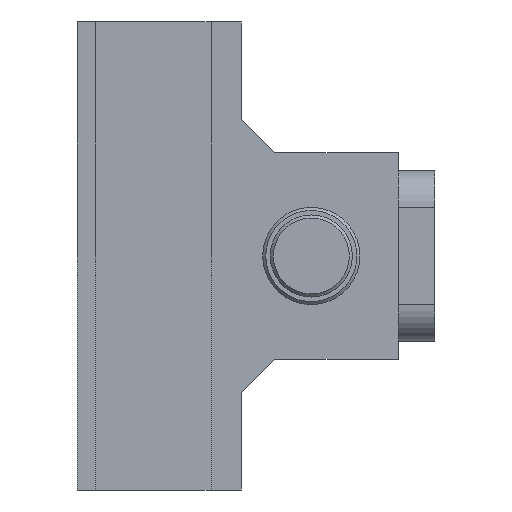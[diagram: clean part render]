
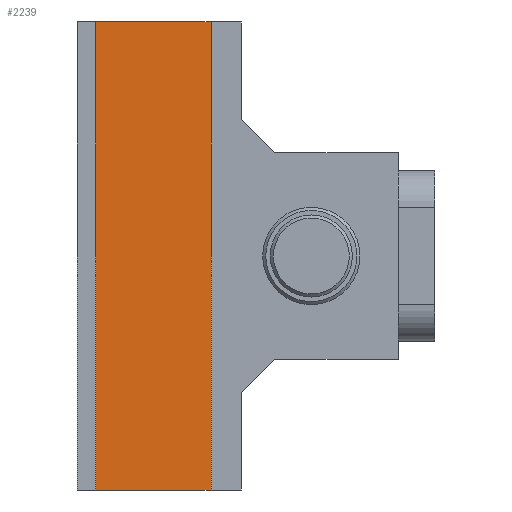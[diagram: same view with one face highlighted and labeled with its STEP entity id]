
A CAD part, left-side view. The second image highlights one B-rep face of the part: STEP entity #2239.
In plain terms, the highlighted planar face has unit normal (-1, 0, 0).
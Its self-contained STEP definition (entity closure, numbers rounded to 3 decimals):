
#50 = VECTOR ( 'NONE', #1115, 1000. ) ;
#60 = ORIENTED_EDGE ( 'NONE', *, *, #1873, .T. ) ;
#442 = CARTESIAN_POINT ( 'NONE',  ( -16.5, 62., 38.5 ) ) ;
#453 = VECTOR ( 'NONE', #1584, 1000. ) ;
#534 = PLANE ( 'NONE',  #941 ) ;
#602 = VERTEX_POINT ( 'NONE', #955 ) ;
#668 = VERTEX_POINT ( 'NONE', #1593 ) ;
#714 = FACE_OUTER_BOUND ( 'NONE', #1116, .T. ) ;
#772 = CARTESIAN_POINT ( 'NONE',  ( -16.5, 43., 38.5 ) ) ;
#786 = CARTESIAN_POINT ( 'NONE',  ( -16.5, 62., 38.5 ) ) ;
#835 = CARTESIAN_POINT ( 'NONE',  ( -16.5, 62., -38.5 ) ) ;
#918 = VECTOR ( 'NONE', #1356, 1000. ) ;
#941 = AXIS2_PLACEMENT_3D ( 'NONE', #1546, #958, #2560 ) ;
#955 = CARTESIAN_POINT ( 'NONE',  ( -16.5, 43., -38.5 ) ) ;
#958 = DIRECTION ( 'NONE',  ( 1., 0., 0. ) ) ;
#1059 = ORIENTED_EDGE ( 'NONE', *, *, #1629, .F. ) ;
#1068 = EDGE_CURVE ( 'NONE', #2422, #602, #2554, .T. ) ;
#1115 = DIRECTION ( 'NONE',  ( 0., -1., 0. ) ) ;
#1116 = EDGE_LOOP ( 'NONE', ( #60, #1263, #2084, #1059 ) ) ;
#1263 = ORIENTED_EDGE ( 'NONE', *, *, #1068, .T. ) ;
#1356 = DIRECTION ( 'NONE',  ( 0., -1., 0. ) ) ;
#1363 = VECTOR ( 'NONE', #2463, 1000. ) ;
#1395 = VERTEX_POINT ( 'NONE', #786 ) ;
#1496 = CARTESIAN_POINT ( 'NONE',  ( -16.5, 62., 38.5 ) ) ;
#1546 = CARTESIAN_POINT ( 'NONE',  ( -16.5, 62., 38.5 ) ) ;
#1584 = DIRECTION ( 'NONE',  ( 0., 0., -1. ) ) ;
#1593 = CARTESIAN_POINT ( 'NONE',  ( -16.5, 43., 38.5 ) ) ;
#1629 = EDGE_CURVE ( 'NONE', #1395, #668, #1694, .T. ) ;
#1694 = LINE ( 'NONE', #1496, #50 ) ;
#1780 = LINE ( 'NONE', #772, #453 ) ;
#1870 = LINE ( 'NONE', #442, #1363 ) ;
#1873 = EDGE_CURVE ( 'NONE', #1395, #2422, #1870, .T. ) ;
#2084 = ORIENTED_EDGE ( 'NONE', *, *, #2400, .F. ) ;
#2239 = ADVANCED_FACE ( 'NONE', ( #714 ), #534, .F. ) ;
#2400 = EDGE_CURVE ( 'NONE', #668, #602, #1780, .T. ) ;
#2422 = VERTEX_POINT ( 'NONE', #835 ) ;
#2463 = DIRECTION ( 'NONE',  ( 0., 0., -1. ) ) ;
#2531 = CARTESIAN_POINT ( 'NONE',  ( -16.5, 62., -38.5 ) ) ;
#2554 = LINE ( 'NONE', #2531, #918 ) ;
#2560 = DIRECTION ( 'NONE',  ( 0., 1., 0. ) ) ;
